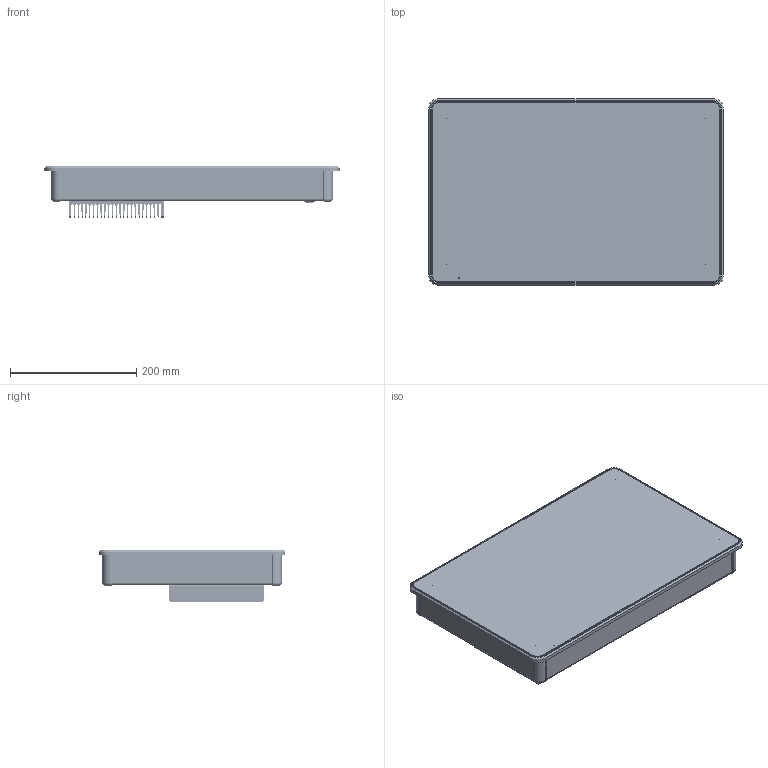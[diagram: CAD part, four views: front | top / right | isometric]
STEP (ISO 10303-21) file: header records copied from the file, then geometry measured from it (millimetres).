
FILE_DESCRIPTION(/* description */ (''),/* implementation_level */ '2;1');
FILE_NAME(/* name */ 'C:\SAPInventorWork\778-41961-00_EXTERN.stp',/* time_stamp */ '2024-04-29T13:29:51+02:00',/* author */ ('Aiple'),/* organization */ (''),/* preprocessor_version */ 'ST-DEVELOPER v18.1',/* originating_system */ 'Autodesk Inventor 2021',/* authorisation */ '');
FILE_SCHEMA (('AUTOMOTIVE_DESIGN { 1 0 10303 214 3 1 1 }'));
Products named in the file (1): 778-41961-00
Bounding box: 466.5 x 295.6 x 82.8 mm (x, y, z)
Volume: 6612420.4 mm3; surface area: 564116.9 mm2
Topology: 1 solids, 74 shells, 10313 faces, 30198 edges, 19853 vertices
Faces by surface type: plane 6770, cylinder 2166, bspline 1016, cone 277, torus 63, sphere 21
Full cylindrical faces by diameter (mm): 0.457 x1, 0.5 x4, 0.6 x3, 0.85 x1, 2.156 x2, 2.459 x18, 2.5 x2, 2.8 x6, 2.9 x2, 2.91 x3, 3 x15, 3.242 x6, 3.5 x8, 4 x2, 4.22 x8, 4.3 x8, 4.5 x8, 4.7 x2, 4.767 x6, 4.917 x4, 5 x3, 5.2 x1, 5.3 x2, 5.38 x6, 5.4 x6, 5.54 x8, 5.7 x8, 8.107 x4, 8.4 x8, 8.72 x4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
Entity records: 369129 total; most frequent: CARTESIAN_POINT 89828, ORIENTED_EDGE 58891, DIRECTION 50944, EDGE_CURVE 30177, LINE 22186, VECTOR 22186, VERTEX_POINT 19853, AXIS2_PLACEMENT_3D 14379
